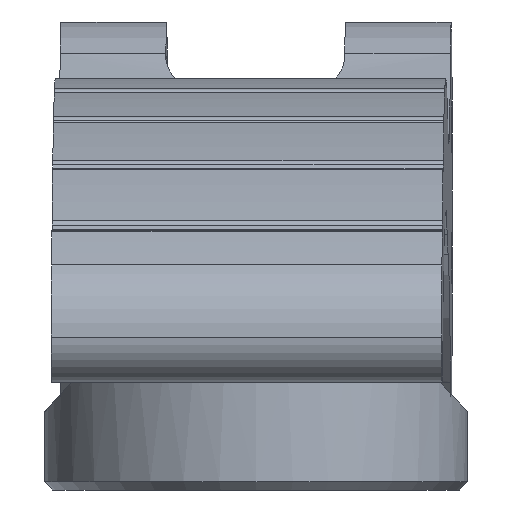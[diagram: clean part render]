
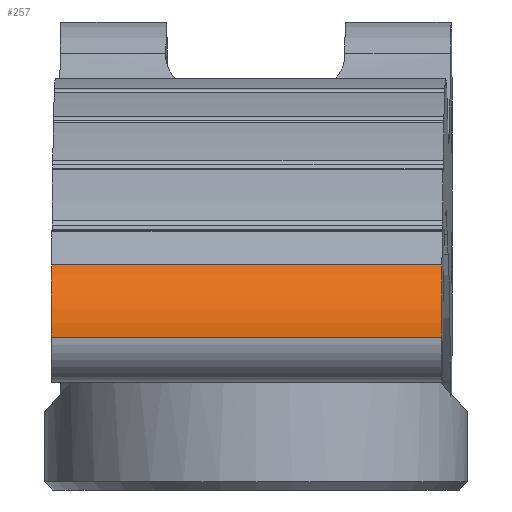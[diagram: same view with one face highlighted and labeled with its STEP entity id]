
A CAD part, left-side view. The second image highlights one B-rep face of the part: STEP entity #257.
In plain terms, the highlighted cylindrical face has radius 5.139 mm (diameter 10.279 mm), a partial arc.
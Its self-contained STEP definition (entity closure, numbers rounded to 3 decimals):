
#257=ADVANCED_FACE('',(#864),#866,.T.);
#864=FACE_BOUND('',#865,.T.);
#865=EDGE_LOOP('',(#1249,#1250,#1251,#1252));
#866=CYLINDRICAL_SURFACE('',#867,5.14);
#867=AXIS2_PLACEMENT_3D('',#868,#869,#870);
#868=CARTESIAN_POINT('',(-90.86,-10.,-4.868));
#869=DIRECTION('',(0.,-1.,0.));
#870=DIRECTION('',(-0.527,0.,0.85));
#1249=ORIENTED_EDGE('',*,*,#1487,.F.);
#1250=ORIENTED_EDGE('',*,*,#1414,.T.);
#1251=ORIENTED_EDGE('',*,*,#1486,.T.);
#1252=ORIENTED_EDGE('',*,*,#1476,.T.);
#1414=EDGE_CURVE('',#1605,#1603,#1606,.F.);
#1476=EDGE_CURVE('',#1727,#1725,#1728,.F.);
#1486=EDGE_CURVE('',#1603,#1727,#1740,.T.);
#1487=EDGE_CURVE('',#1605,#1725,#1741,.T.);
#1603=VERTEX_POINT('',#3475);
#1605=VERTEX_POINT('',#3480);
#1606=CIRCLE('',#3481,5.14);
#1725=VERTEX_POINT('',#3765);
#1727=VERTEX_POINT('',#3770);
#1728=CIRCLE('',#3771,5.14);
#1740=LINE('',#3806,#3807);
#1741=LINE('',#3809,#3810);
#3475=CARTESIAN_POINT('',(-93.568,0.,-0.5));
#3480=CARTESIAN_POINT('',(-96.,0.,-4.866));
#3481=AXIS2_PLACEMENT_3D('',#3482,#3483,#3484);
#3482=CARTESIAN_POINT('',(-90.86,0.,-4.868));
#3483=DIRECTION('',(0.,-1.,0.));
#3484=DIRECTION('',(-0.527,0.,0.85));
#3765=CARTESIAN_POINT('',(-96.,24.,-4.866));
#3770=CARTESIAN_POINT('',(-93.568,24.,-0.5));
#3771=AXIS2_PLACEMENT_3D('',#3772,#3773,#3774);
#3772=CARTESIAN_POINT('',(-90.86,24.,-4.868));
#3773=DIRECTION('',(0.,1.,0.));
#3774=DIRECTION('',(-1.,0.,0.));
#3806=CARTESIAN_POINT('',(-93.568,0.,-0.5));
#3807=VECTOR('',#3808,1.);
#3808=DIRECTION('',(0.,1.,0.));
#3809=CARTESIAN_POINT('',(-96.,0.,-4.864));
#3810=VECTOR('',#3811,1.);
#3811=DIRECTION('',(0.,1.,0.));
